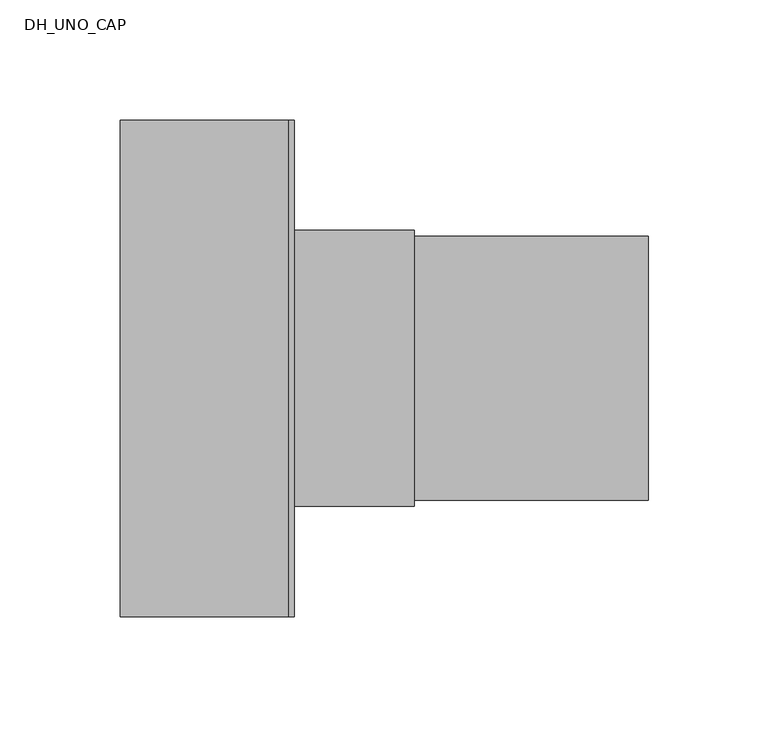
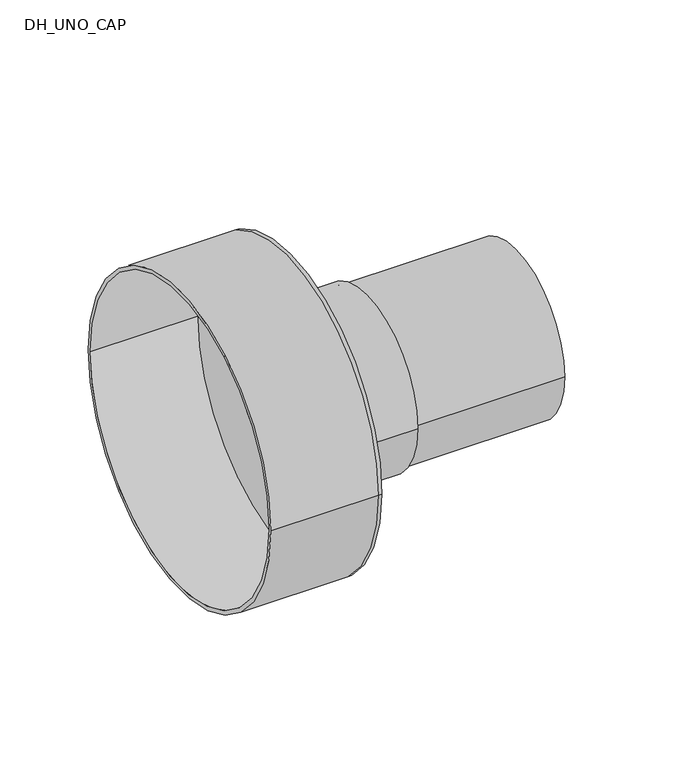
"""IFC4 building model written with IfcOpenShell, lengths in millimetres: pipe fitting geometry, DH_UNO_CAP : RAUTHERMEX UNO ++ 11 Heating - Rubber Cap."""

from ifc_helpers import new_model, si_unit, point, frame, origin, origin_2d, place, context, project, spatial, polyline, circle_curve, trimmed, segment, composite_curve, outline, extrude, source, transform, mapped, element, save
from ifc_brep_helpers import plane_surface, cylinder_surface, revolved_surface, advanced_brep


def dh_uno_cap_7d83968b(model_context):
    return source(origin(), model_context, "Body", "SolidModel", [
        extrude(outline(composite_curve([segment(trimmed(circle_curve(origin_2d(), 55.0), [point((-55.0, 0.0))], [point((55.0, 0.0))], False, "CARTESIAN"), True, "CONTINUOUS"), segment(trimmed(circle_curve(origin_2d(), 55.0), [point((55.0, 0.0))], [point((-55.0, 0.0))], False, "CARTESIAN"), True, "CONTINUOUS")], self_intersect=False), holes=[composite_curve([segment(trimmed(circle_curve(origin_2d(), 45.0), [point((-45.0, 0.0))], [point((45.0, 0.0))], True, "CARTESIAN"), True, "CONTINUOUS"), segment(trimmed(circle_curve(origin_2d(), 45.0), [point((45.0, 0.0))], [point((-45.0, 0.0))], True, "CARTESIAN"), True, "CONTINUOUS")], self_intersect=False)]), frame((0.0, 0.0, 0.0), z_axis=(1.0, 0.0, 0.0), x_axis=(0.0, 1.0, 0.0)), (0.0, 0.0, 1.0), 150.0),
        advanced_brep(
        [(-70.0, -103.5, 0.0), (-70.0, 103.5, 0.0), (-70.0, -101.0, 0.0), (-70.0, 101.0, 0.0), (0.0, -101.0, 0.0), (0.0, 101.0, 0.0), (0.0, -103.5, 0.0), (0.0, 103.5, 0.0), (0.0, 55.0, 0.0), (0.0, -55.0, 0.0), (2.5, -103.5, 0.0), (2.5, 103.5, 0.0), (2.5, -55.0, 0.0), (2.5, 55.0, 0.0)],
        [
            (0, 1, circle_curve(frame((-70.0, 0.0, 0.0), z_axis=(-1.0, 0.0, 0.0), x_axis=(0.0, 1.0, 0.0)), 103.5)),
            (1, 0, circle_curve(frame((-70.0, 0.0, 0.0), z_axis=(-1.0, 0.0, 0.0), x_axis=(0.0, 1.0, 0.0)), 103.5)),
            (2, 3, circle_curve(frame((-70.0, 0.0, 0.0), z_axis=(1.0, 0.0, 0.0), x_axis=(0.0, 1.0, 0.0)), 101.0)),
            (3, 2, circle_curve(frame((-70.0, 0.0, 0.0), z_axis=(1.0, 0.0, 0.0), x_axis=(0.0, 1.0, 0.0)), 101.0)),
            (2, 4),
            (4, 5, circle_curve(frame((0.0, 0.0, 0.0), z_axis=(1.0, 0.0, 0.0), x_axis=(0.0, 1.0, 0.0)), 101.0)),
            (5, 3),
            (5, 4, circle_curve(frame((0.0, 0.0, 0.0), z_axis=(1.0, 0.0, 0.0), x_axis=(0.0, 1.0, 0.0)), 101.0)),
            (0, 6),
            (6, 7, circle_curve(frame((0.0, 0.0, 0.0), z_axis=(-1.0, 0.0, 0.0), x_axis=(0.0, 1.0, 0.0)), 103.5)),
            (7, 1),
            (7, 6, circle_curve(frame((0.0, 0.0, 0.0), z_axis=(-1.0, 0.0, 0.0), x_axis=(0.0, 1.0, 0.0)), 103.5)),
            (8, 9, circle_curve(frame((0.0, 0.0, 0.0), z_axis=(1.0, 0.0, 0.0), x_axis=(0.0, 1.0, 0.0)), 55.0)),
            (9, 8, circle_curve(frame((0.0, 0.0, 0.0), z_axis=(1.0, 0.0, 0.0), x_axis=(0.0, 1.0, 0.0)), 55.0)),
            (10, 11, circle_curve(frame((2.5, 0.0, 0.0), z_axis=(1.0, 0.0, 0.0), x_axis=(0.0, 1.0, 0.0)), 103.5)),
            (11, 10, circle_curve(frame((2.5, 0.0, 0.0), z_axis=(1.0, 0.0, 0.0), x_axis=(0.0, 1.0, 0.0)), 103.5)),
            (12, 13, circle_curve(frame((2.5, 0.0, 0.0), z_axis=(-1.0, 0.0, 0.0), x_axis=(0.0, 1.0, 0.0)), 55.0)),
            (13, 12, circle_curve(frame((2.5, 0.0, 0.0), z_axis=(-1.0, 0.0, 0.0), x_axis=(0.0, 1.0, 0.0)), 55.0)),
            (11, 7),
            (6, 10),
            (8, 13),
            (12, 9),
        ],
        [
            plane_surface(frame((-70.0, 0.0, 0.0), z_axis=(-1.0, 0.0, 0.0), x_axis=(0.0, 0.0, 1.0))),
            revolved_surface(polyline([(0.0, 101.0, 0.0), (-70.0, 101.0, 0.0)]), (-70.0, 0.0, 0.0), (1.0, 0.0, 0.0)),
            cylinder_surface(frame((-70.0, 0.0, 0.0), z_axis=(-1.0, 0.0, 0.0), x_axis=(0.0, 1.0, 0.0)), 103.5),
            plane_surface(frame((0.0, 0.0, 0.0), z_axis=(-1.0, 0.0, 0.0), x_axis=(0.0, 0.0, 1.0))),
            plane_surface(frame((2.5, 0.0, 0.0), z_axis=(1.0, 0.0, 0.0), x_axis=(0.0, 0.0, 1.0))),
            cylinder_surface(frame((0.0, 0.0, 0.0), z_axis=(-1.0, 0.0, 0.0), x_axis=(0.0, 1.0, 0.0)), 103.5),
            revolved_surface(polyline([(0.0, 55.0, 0.0), (2.5, 55.0, 0.0)]), (0.0, 0.0, 0.0), (-1.0, 0.0, 0.0)),
        ],
        [
            (0, [[1, 2], [3, 4]]),
            (1, [[-3, 5, 6, 7]]),
            (1, [[-4, -7, 8, -5]]),
            (2, [[-1, 9, 10, 11]]),
            (2, [[-2, -11, 12, -9]]),
            (3, [[-6, -8], [13, 14]]),
            (4, [[15, 16], [17, 18]]),
            (5, [[-16, 19, -10, 20]]),
            (5, [[-15, -20, -12, -19]]),
            (6, [[21, -17, 22, -13]]),
            (6, [[-21, -14, -22, -18]]),
        ],
    ),
        extrude(outline(composite_curve([segment(trimmed(circle_curve(origin_2d(), 57.5), [point((-57.5, 0.0))], [point((57.5, 0.0))], False, "CARTESIAN"), True, "CONTINUOUS"), segment(trimmed(circle_curve(origin_2d(), 57.5), [point((57.5, 0.0))], [point((-57.5, 0.0))], False, "CARTESIAN"), True, "CONTINUOUS")], self_intersect=False), holes=[composite_curve([segment(trimmed(circle_curve(origin_2d(), 55.0), [point((-55.0, 0.0))], [point((55.0, 0.0))], True, "CARTESIAN"), True, "CONTINUOUS"), segment(trimmed(circle_curve(origin_2d(), 55.0), [point((55.0, 0.0))], [point((-55.0, 0.0))], True, "CARTESIAN"), True, "CONTINUOUS")], self_intersect=False)]), frame((2.5, 0.0, 0.0), z_axis=(1.0, 0.0, 0.0), x_axis=(0.0, 1.0, 0.0)), (0.0, 0.0, 1.0), 50.0),
    ])


if __name__ == "__main__":
    model = new_model("IFC4")
    model_context = context("Model", 3, world=origin())
    ifc_project = project(units=[si_unit("LENGTHUNIT", "METRE", prefix="MILLI")], contexts=[model_context])
    site = spatial("IfcSite", under=ifc_project)
    building = spatial("IfcBuilding", under=site)
    placement = place(None, origin())
    dh_uno_cap_shape = dh_uno_cap_7d83968b(model_context)
    element("IfcPipeFitting", 1, ObjectType="DH_UNO_CAP : RAUTHERMEX UNO ++ 11 Heating - Rubber Cap", at=placement, inside=building, context=model_context, shape_type="MappedRepresentation", body=[
        mapped(dh_uno_cap_shape, transform((0.0, 0.0, 0.0), x_axis=(1.0, 0.0, 0.0), y_axis=(0.0, 1.0, 0.0), z_axis=(0.0, 0.0, 1.0))),
    ])
    save(model, "model.ifc")
